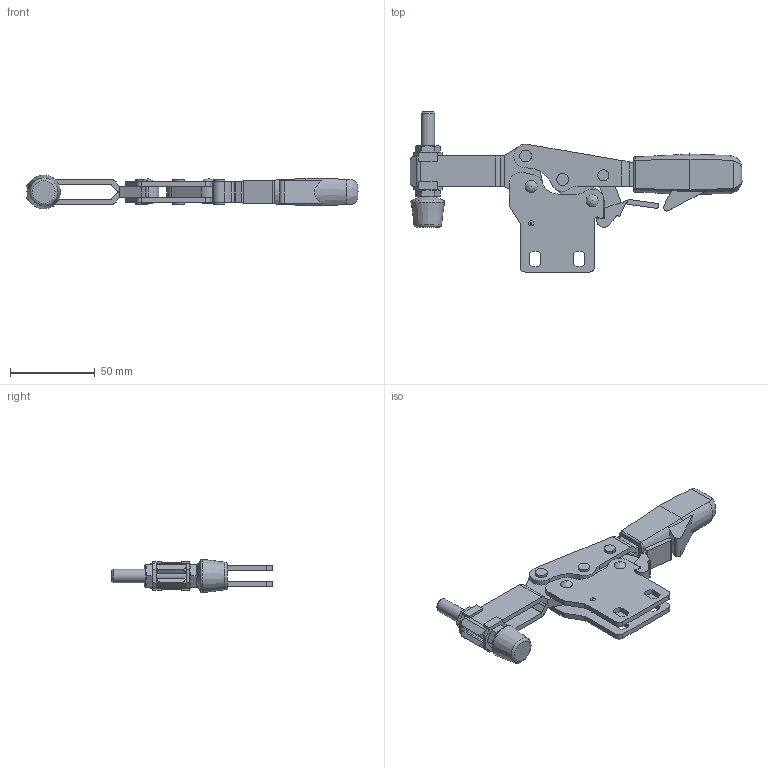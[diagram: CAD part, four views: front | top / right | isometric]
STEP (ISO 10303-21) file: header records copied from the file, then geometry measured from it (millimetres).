
FILE_DESCRIPTION( ( 'STEP AP203' ), '1' );
FILE_NAME( 'C:/Temp/Ganter_Step_05_03_2020/data/2_4/gn_820_4/gn_820_4_st/Toggle clamp GN 820.4-230-NLC (closed).stp', '2020-03-13T05:53:30', ( 'License CC BY-ND 4.0' ), ( 'CADENAS' ), ' ', 'PARTsolutions', ' ' );
FILE_SCHEMA( ( 'CONFIG_CONTROL_DESIGN' ) );
Length unit declared in the file: millimetre
Products named in the file (8): Toggle clamp GN 820.4-230-NLC (closed); _Toggle clamp GN 820.4-230-NLC-1; _Toggle clamp GN 820.4-230-NLC (1)-2; _Toggle clamp GN 820.4-230-NLC (1)-3; _Toggle clamp GN 820.4-230-NLC (1)-4; _Toggle clamp GN 820.4-230-NLC-5; _Toggle clamp GN 820.4-230-NLC-7; _Clamping bolt GN 708.1-M8-68-A-ST PLC
Assembly tree (8 placements, depth 2):
  Toggle clamp GN 820.4-230-NLC (closed)
    _Toggle clamp GN 820.4-230-NLC-1
    _Toggle clamp GN 820.4-230-NLC (1)-2
    _Toggle clamp GN 820.4-230-NLC (1)-3
    _Toggle clamp GN 820.4-230-NLC (1)-4
    _Toggle clamp GN 820.4-230-NLC-5
    _Toggle clamp GN 820.4-230-NLC-7  x2
    _Clamping bolt GN 708.1-M8-68-A-ST PLC
Bounding box: 196 x 94.5 x 19.82 mm (x, y, z)
Volume: 66839.4 mm3; surface area: 37711.6 mm2
Topology: 8 solids, 8 shells, 317 faces, 821 edges, 538 vertices
Faces by surface type: plane 168, cylinder 102, cone 35, bspline 6, torus 6
Full cylindrical faces by diameter (mm): 1.4 x1, 4.4 x4, 6.5 x5, 6.647 x2, 7 x10, 8 x1, 8.8 x2
Entity records: 8799 total; most frequent: CARTESIAN_POINT 1800, DIRECTION 1430, ORIENTED_EDGE 1340, EDGE_CURVE 670, AXIS2_PLACEMENT_3D 530, VERTEX_POINT 464, LINE 370, VECTOR 370
